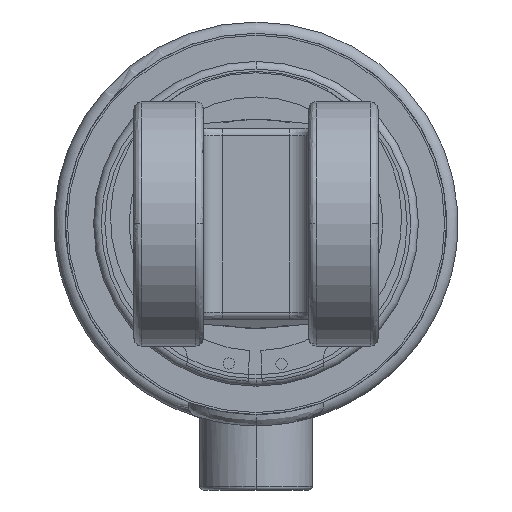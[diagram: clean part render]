
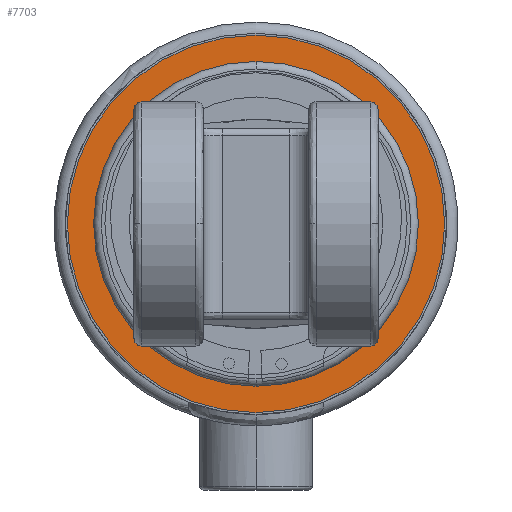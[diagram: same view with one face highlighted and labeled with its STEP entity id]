
A CAD part, left-side view. The second image highlights one B-rep face of the part: STEP entity #7703.
In plain terms, the highlighted planar face has unit normal (-1, 0, 0).
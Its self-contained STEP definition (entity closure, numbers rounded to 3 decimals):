
#23 = FACE_OUTER_BOUND ( 'NONE', #6127, .T. ) ;
#168 = ORIENTED_EDGE ( 'NONE', *, *, #4515, .F. ) ;
#763 = DIRECTION ( 'NONE',  ( -1., 0., 0. ) ) ;
#1312 = CIRCLE ( 'NONE', #2742, 50.2 ) ;
#1413 = CARTESIAN_POINT ( 'NONE',  ( -468.005, 0., -50.2 ) ) ;
#1736 = ORIENTED_EDGE ( 'NONE', *, *, #6874, .T. ) ;
#1846 = CARTESIAN_POINT ( 'NONE',  ( -468.005, 0., 0. ) ) ;
#1963 = DIRECTION ( 'NONE',  ( -1., 0., 0. ) ) ;
#2041 = EDGE_CURVE ( 'NONE', #9537, #10384, #7230, .T. ) ;
#2207 = ORIENTED_EDGE ( 'NONE', *, *, #6639, .F. ) ;
#2742 = AXIS2_PLACEMENT_3D ( 'NONE', #7271, #1963, #8135 ) ;
#2760 = DIRECTION ( 'NONE',  ( 0., 0., 1. ) ) ;
#2793 = CARTESIAN_POINT ( 'NONE',  ( -468.005, 0., -43.2 ) ) ;
#2928 = CIRCLE ( 'NONE', #4874, 43.2 ) ;
#3076 = CARTESIAN_POINT ( 'NONE',  ( -468.005, 0., 43.2 ) ) ;
#3460 = EDGE_LOOP ( 'NONE', ( #168, #2207 ) ) ;
#3968 = ORIENTED_EDGE ( 'NONE', *, *, #2041, .T. ) ;
#4237 = CARTESIAN_POINT ( 'NONE',  ( -468.005, 0., 0. ) ) ;
#4503 = CIRCLE ( 'NONE', #10563, 43.2 ) ;
#4515 = EDGE_CURVE ( 'NONE', #11176, #10907, #2928, .T. ) ;
#4668 = DIRECTION ( 'NONE',  ( -1., 0., 0. ) ) ;
#4874 = AXIS2_PLACEMENT_3D ( 'NONE', #1846, #8023, #2760 ) ;
#5112 = DIRECTION ( 'NONE',  ( 0., 0., 1. ) ) ;
#5213 = PLANE ( 'NONE',  #7021 ) ;
#5226 = AXIS2_PLACEMENT_3D ( 'NONE', #9891, #4668, #10755 ) ;
#6127 = EDGE_LOOP ( 'NONE', ( #1736, #3968 ) ) ;
#6639 = EDGE_CURVE ( 'NONE', #10907, #11176, #4503, .T. ) ;
#6874 = EDGE_CURVE ( 'NONE', #10384, #9537, #1312, .T. ) ;
#6973 = DIRECTION ( 'NONE',  ( 0., 0., 1. ) ) ;
#7021 = AXIS2_PLACEMENT_3D ( 'NONE', #11273, #763, #6973 ) ;
#7108 = FACE_BOUND ( 'NONE', #3460, .T. ) ;
#7230 = CIRCLE ( 'NONE', #5226, 50.2 ) ;
#7271 = CARTESIAN_POINT ( 'NONE',  ( -468.005, 0., 0. ) ) ;
#7703 = ADVANCED_FACE ( 'NONE', ( #23, #7108 ), #5213, .T. ) ;
#8023 = DIRECTION ( 'NONE',  ( -1., 0., 0. ) ) ;
#8135 = DIRECTION ( 'NONE',  ( 0., 0., 1. ) ) ;
#8177 = CARTESIAN_POINT ( 'NONE',  ( -468.005, 0., 50.2 ) ) ;
#9537 = VERTEX_POINT ( 'NONE', #1413 ) ;
#9891 = CARTESIAN_POINT ( 'NONE',  ( -468.005, 0., 0. ) ) ;
#10329 = DIRECTION ( 'NONE',  ( -1., 0., 0. ) ) ;
#10384 = VERTEX_POINT ( 'NONE', #8177 ) ;
#10563 = AXIS2_PLACEMENT_3D ( 'NONE', #4237, #10329, #5112 ) ;
#10755 = DIRECTION ( 'NONE',  ( 0., 0., 1. ) ) ;
#10907 = VERTEX_POINT ( 'NONE', #2793 ) ;
#11176 = VERTEX_POINT ( 'NONE', #3076 ) ;
#11273 = CARTESIAN_POINT ( 'NONE',  ( -468.005, 0., -50.2 ) ) ;
